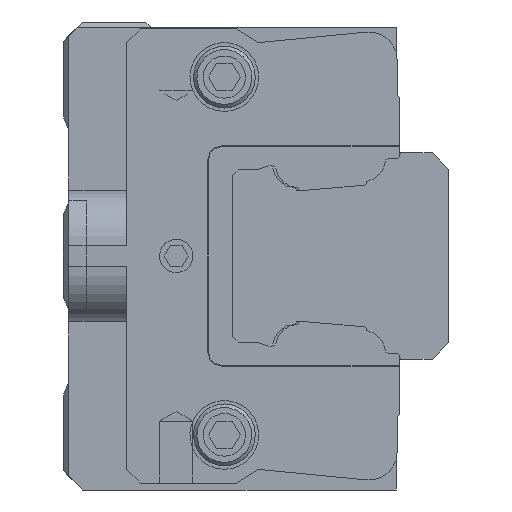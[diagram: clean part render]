
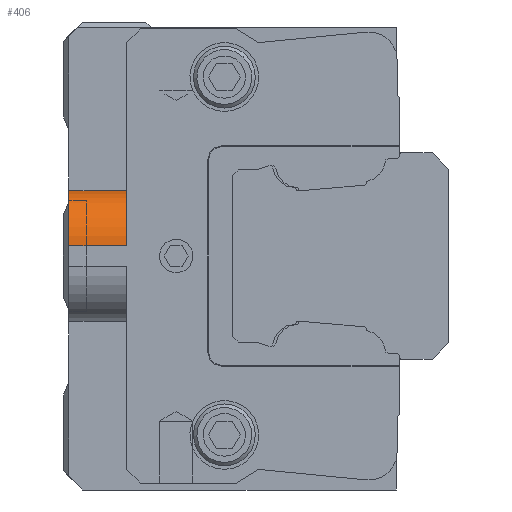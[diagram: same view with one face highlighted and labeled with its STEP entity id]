
A CAD part, left-side view. The second image highlights one B-rep face of the part: STEP entity #406.
In plain terms, the highlighted cylindrical face has radius 4 mm (diameter 8 mm), a partial arc.
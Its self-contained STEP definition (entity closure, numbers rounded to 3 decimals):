
#406 = ADVANCED_FACE( '', ( #1074 ), #1075, .T. );
#1074 = FACE_OUTER_BOUND( '', #2220, .T. );
#1075 = CYLINDRICAL_SURFACE( '', #2221, 4. );
#2220 = EDGE_LOOP( '', ( #3354, #3355, #3356, #3357 ) );
#2221 = AXIS2_PLACEMENT_3D( '', #3358, #3359, #3360 );
#3354 = ORIENTED_EDGE( '', *, *, #5949, .F. );
#3355 = ORIENTED_EDGE( '', *, *, #5950, .F. );
#3356 = ORIENTED_EDGE( '', *, *, #5951, .T. );
#3357 = ORIENTED_EDGE( '', *, *, #5952, .T. );
#3358 = CARTESIAN_POINT( '', ( 4., 23.6, 0.75 ) );
#3359 = DIRECTION( '', ( 0., -1., 0. ) );
#3360 = DIRECTION( '', ( 0., 0., 1. ) );
#5949 = EDGE_CURVE( '', #6939, #6940, #6941, .T. );
#5950 = EDGE_CURVE( '', #6942, #6939, #6943, .T. );
#5951 = EDGE_CURVE( '', #6942, #6944, #6945, .T. );
#5952 = EDGE_CURVE( '', #6944, #6940, #6946, .T. );
#6939 = VERTEX_POINT( '', #8413 );
#6940 = VERTEX_POINT( '', #8414 );
#6941 = CIRCLE( '', #8415, 4. );
#6942 = VERTEX_POINT( '', #8416 );
#6943 = LINE( '', #8417, #8418 );
#6944 = VERTEX_POINT( '', #8419 );
#6945 = CIRCLE( '', #8420, 4. );
#6946 = LINE( '', #8421, #8422 );
#8413 = CARTESIAN_POINT( '', ( 0., 27.8, 0.75 ) );
#8414 = CARTESIAN_POINT( '', ( 4., 27.8, 4.75 ) );
#8415 = AXIS2_PLACEMENT_3D( '', #10270, #10271, #10272 );
#8416 = CARTESIAN_POINT( '', ( 0., 23.6, 0.75 ) );
#8417 = CARTESIAN_POINT( '', ( 0., 23.6, 0.75 ) );
#8418 = VECTOR( '', #10273, 1000. );
#8419 = CARTESIAN_POINT( '', ( 4., 23.6, 4.75 ) );
#8420 = AXIS2_PLACEMENT_3D( '', #10274, #10275, #10276 );
#8421 = CARTESIAN_POINT( '', ( 4., 23.6, 4.75 ) );
#8422 = VECTOR( '', #10277, 1000. );
#10270 = CARTESIAN_POINT( '', ( 4., 27.8, 0.75 ) );
#10271 = DIRECTION( '', ( 0., 1., 0. ) );
#10272 = DIRECTION( '', ( 1., 0., 0. ) );
#10273 = DIRECTION( '', ( 0., 1., 0. ) );
#10274 = CARTESIAN_POINT( '', ( 4., 23.6, 0.75 ) );
#10275 = DIRECTION( '', ( 0., 1., 0. ) );
#10276 = DIRECTION( '', ( 1., 0., 0. ) );
#10277 = DIRECTION( '', ( 0., 1., 0. ) );
